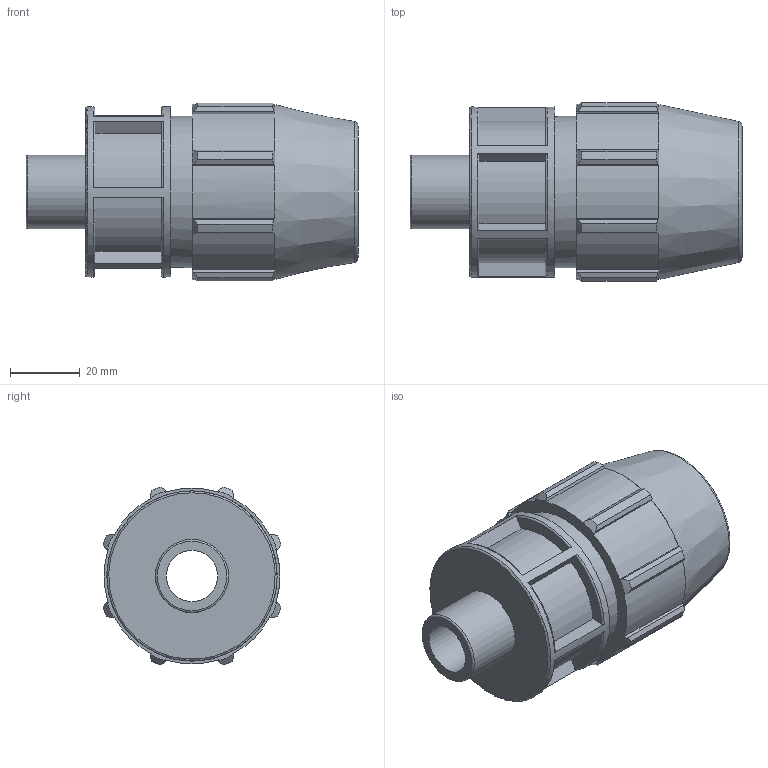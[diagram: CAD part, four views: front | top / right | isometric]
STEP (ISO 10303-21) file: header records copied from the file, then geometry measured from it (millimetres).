
FILE_DESCRIPTION(/* description */ ('PLASSON MALE ADAPTOR 3/4'''' - 1/2''''M'),/* implementation_level */ '2;1');
FILE_NAME(/* name */ 'C:\Dropbox\KIMPROJECTS-Inventor 2019\99-16-3568-Processing Inch\ASTM Compression 2021\0702M0\0702M0007005.ipt.stp',/* time_stamp */ '2021-08-26T12:30:03+03:00',/* author */ ('KIM'),/* organization */ (''),/* preprocessor_version */ 'ST-DEVELOPER v17.2',/* originating_system */ 'Autodesk Inventor 2019',/* authorisation */ '');
FILE_SCHEMA (('AUTOMOTIVE_DESIGN { 1 0 10303 214 3 1 1 }'));
Length unit declared in the file: inch
Products named in the file (1): 0702M0007005
Bounding box: 95 x 50.91 x 50.91 mm (x, y, z)
Volume: 91431.3 mm3; surface area: 25899.2 mm2
Topology: 1 solids, 1 shells, 117 faces, 327 edges, 223 vertices
Faces by surface type: plane 63, cylinder 27, torus 15, cone 12
Full cylindrical faces by diameter (mm): 14.668 x1, 20.955 x1, 26.6 x1, 43.282 x1, 48.692 x1
Entity records: 4135 total; most frequent: CARTESIAN_POINT 948, ORIENTED_EDGE 654, DIRECTION 625, EDGE_CURVE 327, AXIS2_PLACEMENT_3D 236, VERTEX_POINT 223, LINE 153, VECTOR 153
